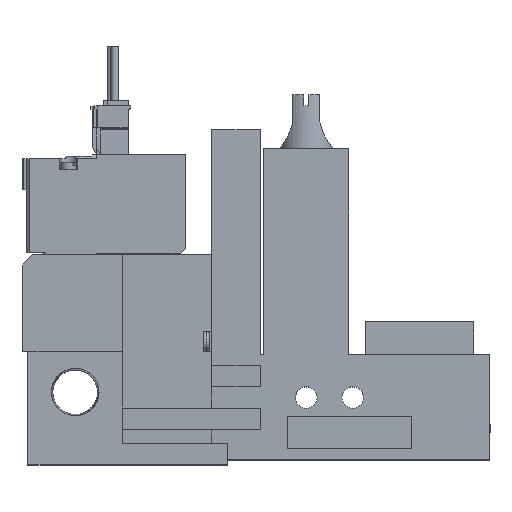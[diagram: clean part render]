
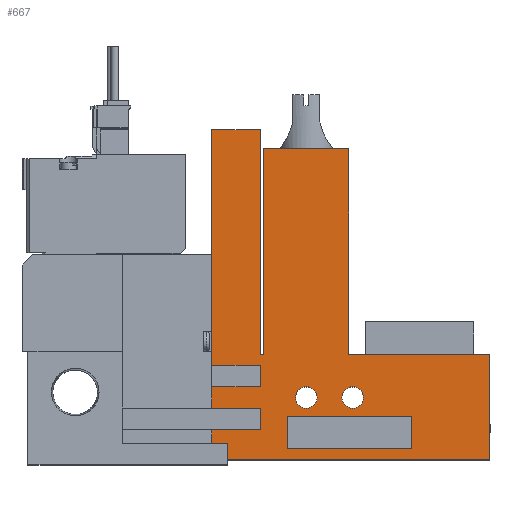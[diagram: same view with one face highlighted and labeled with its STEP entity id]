
A CAD part, top view. The second image highlights one B-rep face of the part: STEP entity #667.
In plain terms, the highlighted planar face has unit normal (0, 0, 1).
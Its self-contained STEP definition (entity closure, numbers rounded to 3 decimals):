
#667=ADVANCED_FACE('',(#1391,#1392,#1393,#1394),#1395,.T.);
#1391=FACE_OUTER_BOUND('',#2250,.T.);
#1392=FACE_BOUND('',#2251,.T.);
#1393=FACE_BOUND('',#2252,.T.);
#1394=FACE_BOUND('',#2253,.T.);
#1395=PLANE('',#2254);
#2250=EDGE_LOOP('',(#4963,#4964,#4965,#4966,#4967,#4968,#4969,#4970,#4971,#4972,#4973,#4974,#4975,#4976,#4977,#4978,#4979,#4980));
#2251=EDGE_LOOP('',(#4981,#4982,#4983,#4984));
#2252=EDGE_LOOP('',(#4985));
#2253=EDGE_LOOP('',(#4986));
#2254=AXIS2_PLACEMENT_3D('',#4987,#4988,#4989);
#4963=ORIENTED_EDGE('',*,*,#6391,.T.);
#4964=ORIENTED_EDGE('',*,*,#6399,.T.);
#4965=ORIENTED_EDGE('',*,*,#6398,.T.);
#4966=ORIENTED_EDGE('',*,*,#6364,.T.);
#4967=ORIENTED_EDGE('',*,*,#6400,.T.);
#4968=ORIENTED_EDGE('',*,*,#6302,.T.);
#4969=ORIENTED_EDGE('',*,*,#6393,.T.);
#4970=ORIENTED_EDGE('',*,*,#6300,.T.);
#4971=ORIENTED_EDGE('',*,*,#6325,.T.);
#4972=ORIENTED_EDGE('',*,*,#6315,.T.);
#4973=ORIENTED_EDGE('',*,*,#6401,.T.);
#4974=ORIENTED_EDGE('',*,*,#6351,.T.);
#4975=ORIENTED_EDGE('',*,*,#6402,.T.);
#4976=ORIENTED_EDGE('',*,*,#6378,.T.);
#4977=ORIENTED_EDGE('',*,*,#6295,.T.);
#4978=ORIENTED_EDGE('',*,*,#6328,.T.);
#4979=ORIENTED_EDGE('',*,*,#6403,.T.);
#4980=ORIENTED_EDGE('',*,*,#6404,.T.);
#4981=ORIENTED_EDGE('',*,*,#6252,.T.);
#4982=ORIENTED_EDGE('',*,*,#6348,.T.);
#4983=ORIENTED_EDGE('',*,*,#6240,.T.);
#4984=ORIENTED_EDGE('',*,*,#6337,.T.);
#4985=ORIENTED_EDGE('',*,*,#6366,.T.);
#4986=ORIENTED_EDGE('',*,*,#6336,.T.);
#4987=CARTESIAN_POINT('',(0.0,0.0,10.0));
#4988=DIRECTION('',(0.0,0.0,1.0));
#4989=DIRECTION('',(1.0,0.0,0.0));
#6240=EDGE_CURVE('',#7667,#7672,#7674,.T.);
#6252=EDGE_CURVE('',#7691,#7696,#7698,.T.);
#6295=EDGE_CURVE('',#7781,#7779,#7782,.T.);
#6300=EDGE_CURVE('',#7788,#7786,#7789,.T.);
#6302=EDGE_CURVE('',#7791,#7792,#7793,.T.);
#6315=EDGE_CURVE('',#7813,#7811,#7814,.T.);
#6325=EDGE_CURVE('',#7786,#7813,#7828,.T.);
#6328=EDGE_CURVE('',#7779,#7831,#7833,.T.);
#6336=EDGE_CURVE('',#7846,#7846,#7847,.T.);
#6337=EDGE_CURVE('',#7672,#7691,#7848,.T.);
#6348=EDGE_CURVE('',#7696,#7667,#7863,.T.);
#6351=EDGE_CURVE('',#7869,#7867,#7870,.T.);
#6364=EDGE_CURVE('',#7885,#7889,#7891,.T.);
#6366=EDGE_CURVE('',#7894,#7894,#7895,.T.);
#6378=EDGE_CURVE('',#7914,#7781,#7915,.T.);
#6391=EDGE_CURVE('',#7937,#7935,#7938,.T.);
#6393=EDGE_CURVE('',#7792,#7788,#7940,.T.);
#6398=EDGE_CURVE('',#7946,#7885,#7948,.T.);
#6399=EDGE_CURVE('',#7935,#7946,#7949,.T.);
#6400=EDGE_CURVE('',#7889,#7791,#7950,.T.);
#6401=EDGE_CURVE('',#7811,#7869,#7951,.T.);
#6402=EDGE_CURVE('',#7867,#7914,#7952,.T.);
#6403=EDGE_CURVE('',#7831,#7953,#7954,.T.);
#6404=EDGE_CURVE('',#7953,#7937,#7955,.T.);
#7667=VERTEX_POINT('',#9968);
#7672=VERTEX_POINT('',#9975);
#7674=LINE('',#9978,#9979);
#7691=VERTEX_POINT('',#10004);
#7696=VERTEX_POINT('',#10011);
#7698=LINE('',#10014,#10015);
#7779=VERTEX_POINT('',#10133);
#7781=VERTEX_POINT('',#10136);
#7782=LINE('',#10137,#10138);
#7786=VERTEX_POINT('',#10145);
#7788=VERTEX_POINT('',#10148);
#7789=LINE('',#10149,#10150);
#7791=VERTEX_POINT('',#10153);
#7792=VERTEX_POINT('',#10154);
#7793=LINE('',#10155,#10156);
#7811=VERTEX_POINT('',#10185);
#7813=VERTEX_POINT('',#10188);
#7814=LINE('',#10189,#10190);
#7828=LINE('',#10232,#10233);
#7831=VERTEX_POINT('',#10237);
#7833=LINE('',#10240,#10241);
#7846=VERTEX_POINT('',#10260);
#7847=CIRCLE('',#10261,2.0);
#7848=LINE('',#10262,#10263);
#7863=LINE('',#10287,#10288);
#7867=VERTEX_POINT('',#10293);
#7869=VERTEX_POINT('',#10296);
#7870=LINE('',#10297,#10298);
#7885=VERTEX_POINT('',#10322);
#7889=VERTEX_POINT('',#10328);
#7891=LINE('',#10331,#10332);
#7894=VERTEX_POINT('',#10335);
#7895=CIRCLE('',#10336,2.0);
#7914=VERTEX_POINT('',#10362);
#7915=LINE('',#10363,#10364);
#7935=VERTEX_POINT('',#10395);
#7937=VERTEX_POINT('',#10398);
#7938=LINE('',#10399,#10400);
#7940=LINE('',#10403,#10404);
#7946=VERTEX_POINT('',#10413);
#7948=LINE('',#10416,#10417);
#7949=LINE('',#10418,#10419);
#7950=LINE('',#10420,#10421);
#7951=LINE('',#10422,#10423);
#7952=LINE('',#10424,#10425);
#7953=VERTEX_POINT('',#10426);
#7954=LINE('',#10427,#10428);
#7955=LINE('',#10429,#10430);
#9968=CARTESIAN_POINT('',(72.1,8.0,10.0));
#9975=CARTESIAN_POINT('',(72.1,2.0,10.0));
#9978=CARTESIAN_POINT('',(72.1,0.0,10.0));
#9979=VECTOR('',#11648,1.0);
#10004=CARTESIAN_POINT('',(49.1,2.0,10.0));
#10011=CARTESIAN_POINT('',(49.1,8.0,10.0));
#10014=CARTESIAN_POINT('',(49.1,0.0,10.0));
#10015=VECTOR('',#11660,1.0);
#10133=CARTESIAN_POINT('',(44.75,19.5,10.0));
#10136=CARTESIAN_POINT('',(44.75,57.5,10.0));
#10137=CARTESIAN_POINT('',(44.75,57.5,10.0));
#10138=VECTOR('',#11711,1.0);
#10145=CARTESIAN_POINT('',(35.1,5.5,10.0));
#10148=CARTESIAN_POINT('',(44.1,5.5,10.0));
#10149=CARTESIAN_POINT('',(0.0,5.5,10.0));
#10150=VECTOR('',#11716,1.0);
#10153=CARTESIAN_POINT('',(35.1,9.5,10.0));
#10154=CARTESIAN_POINT('',(44.1,9.5,10.0));
#10155=CARTESIAN_POINT('',(0.0,9.5,10.0));
#10156=VECTOR('',#11718,1.0);
#10185=CARTESIAN_POINT('',(86.6,0.0,10.0));
#10188=CARTESIAN_POINT('',(35.1,0.0,10.0));
#10189=CARTESIAN_POINT('',(18.6,0.0,10.0));
#10190=VECTOR('',#11731,1.0);
#10232=CARTESIAN_POINT('',(35.1,0.0,10.0));
#10233=VECTOR('',#11746,1.0);
#10237=CARTESIAN_POINT('',(44.1,19.5,10.0));
#10240=CARTESIAN_POINT('',(44.75,19.5,10.0));
#10241=VECTOR('',#11749,1.0);
#10260=CARTESIAN_POINT('',(63.2,11.5,10.0));
#10261=AXIS2_PLACEMENT_3D('',#11759,#11760,#11761);
#10262=CARTESIAN_POINT('',(0.0,2.0,10.0));
#10263=VECTOR('',#11762,1.0);
#10287=CARTESIAN_POINT('',(0.0,8.0,10.0));
#10288=VECTOR('',#11775,1.0);
#10293=CARTESIAN_POINT('',(60.45,19.5,10.0));
#10296=CARTESIAN_POINT('',(86.6,19.5,10.0));
#10297=CARTESIAN_POINT('',(86.6,19.5,10.0));
#10298=VECTOR('',#11778,1.0);
#10322=CARTESIAN_POINT('',(44.1,13.5,10.0));
#10328=CARTESIAN_POINT('',(35.1,13.5,10.0));
#10331=CARTESIAN_POINT('',(0.0,13.5,10.0));
#10332=VECTOR('',#11791,1.0);
#10335=CARTESIAN_POINT('',(54.6,11.5,10.0));
#10336=AXIS2_PLACEMENT_3D('',#11795,#11796,#11797);
#10362=CARTESIAN_POINT('',(60.45,57.5,10.0));
#10363=CARTESIAN_POINT('',(60.45,57.5,10.0));
#10364=VECTOR('',#11814,1.0);
#10395=CARTESIAN_POINT('',(35.1,17.5,10.0));
#10398=CARTESIAN_POINT('',(35.1,61.0,10.0));
#10399=CARTESIAN_POINT('',(35.1,61.0,10.0));
#10400=VECTOR('',#11827,1.0);
#10403=CARTESIAN_POINT('',(44.1,0.0,10.0));
#10404=VECTOR('',#11829,1.0);
#10413=CARTESIAN_POINT('',(44.1,17.5,10.0));
#10416=CARTESIAN_POINT('',(44.1,0.0,10.0));
#10417=VECTOR('',#11834,1.0);
#10418=CARTESIAN_POINT('',(0.0,17.5,10.0));
#10419=VECTOR('',#11835,1.0);
#10420=CARTESIAN_POINT('',(35.1,0.0,10.0));
#10421=VECTOR('',#11836,1.0);
#10422=CARTESIAN_POINT('',(86.6,0.0,10.0));
#10423=VECTOR('',#11837,1.0);
#10424=CARTESIAN_POINT('',(60.45,19.5,10.0));
#10425=VECTOR('',#11838,1.0);
#10426=CARTESIAN_POINT('',(44.1,61.0,10.0));
#10427=CARTESIAN_POINT('',(44.1,19.5,10.0));
#10428=VECTOR('',#11839,1.0);
#10429=CARTESIAN_POINT('',(44.1,61.0,10.0));
#10430=VECTOR('',#11840,1.0);
#11648=DIRECTION('',(0.0,-1.0,0.0));
#11660=DIRECTION('',(0.0,1.0,0.0));
#11711=DIRECTION('',(0.0,-1.0,0.0));
#11716=DIRECTION('',(-1.0,0.0,0.0));
#11718=DIRECTION('',(1.0,0.0,0.0));
#11731=DIRECTION('',(1.0,0.0,0.0));
#11746=DIRECTION('',(0.0,-1.0,0.0));
#11749=DIRECTION('',(-1.0,0.0,0.0));
#11759=CARTESIAN_POINT('',(61.2,11.5,10.0));
#11760=DIRECTION('',(0.0,0.0,-1.0));
#11761=DIRECTION('',(1.0,0.0,0.0));
#11762=DIRECTION('',(-1.0,0.0,0.0));
#11775=DIRECTION('',(1.0,0.0,0.0));
#11778=DIRECTION('',(-1.0,0.0,0.0));
#11791=DIRECTION('',(-1.0,0.0,0.0));
#11795=CARTESIAN_POINT('',(52.6,11.5,10.0));
#11796=DIRECTION('',(0.0,0.0,-1.0));
#11797=DIRECTION('',(1.0,0.0,0.0));
#11814=DIRECTION('',(-1.0,0.0,0.0));
#11827=DIRECTION('',(0.0,-1.0,0.0));
#11829=DIRECTION('',(0.0,-1.0,0.0));
#11834=DIRECTION('',(0.0,-1.0,0.0));
#11835=DIRECTION('',(1.0,0.0,0.0));
#11836=DIRECTION('',(0.0,-1.0,0.0));
#11837=DIRECTION('',(0.0,1.0,0.0));
#11838=DIRECTION('',(0.0,1.0,0.0));
#11839=DIRECTION('',(0.0,1.0,0.0));
#11840=DIRECTION('',(-1.0,0.0,0.0));
